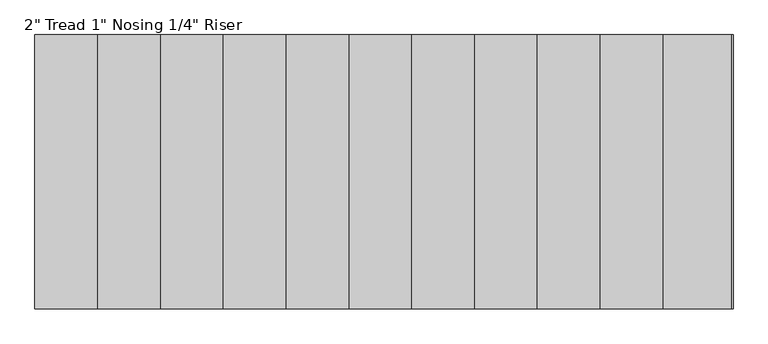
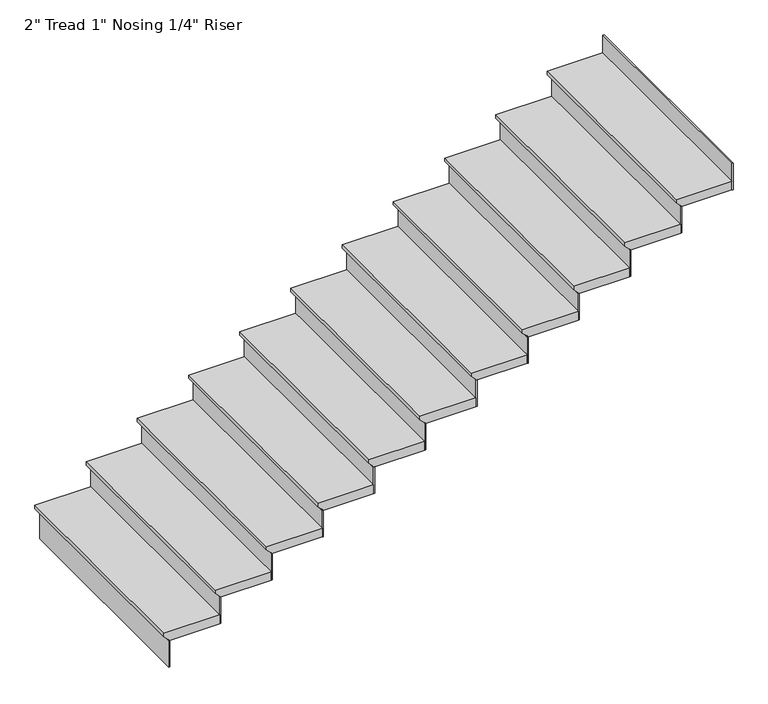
"""IFC4 building model written with IfcOpenShell, lengths in millimetres: stair flight geometry."""

from ifc_helpers import new_model, si_unit, frame, origin, place, context, project, spatial, polyline, outline, extrude, source, transform, mapped, element, save


def stair_flight_635392da(model_context):
    return source(origin(), model_context, "Body", "SweptSolid", [
        extrude(outline(polyline([(7467.6, -17516.1273699), (7467.6, -17820.9273699), (7448.55, -17820.9273699), (7423.15, -17795.5273699), (7416.8, -17795.5273699), (7416.8, -17516.1273699), (7467.6, -17516.1273699)])), frame((0.0, -12212.8253362, 0.0), z_axis=(0.0, 1.0, 0.0), x_axis=(0.0, 0.0, 1.0)), (0.0, 0.0, 1.0), 1219.2),
        extrude(outline(polyline([(-17789.1773699, -12212.8253362), (-17795.5273699, -12212.8253362), (-17795.5273699, -10993.6253362), (-17789.1773699, -10993.6253362), (-17789.1773699, -12212.8253362)])), frame((0.0, 0.0, 7264.4), z_axis=(0.0, 0.0, 1.0), x_axis=(1.0, 0.0, 0.0)), (0.0, 0.0, 1.0), 152.4),
        extrude(outline(polyline([(-17509.7773699, -12212.8253362), (-17516.1273699, -12212.8253362), (-17516.1273699, -10993.6253362), (-17509.7773699, -10993.6253362), (-17509.7773699, -12212.8253362)])), frame((0.0, 0.0, 7416.8), z_axis=(0.0, 0.0, 1.0), x_axis=(1.0, 0.0, 0.0)), (0.0, 0.0, 1.0), 152.4),
        extrude(outline(polyline([(7620.0, -17236.7273699), (7620.0, -17541.5273699), (7600.95, -17541.5273699), (7575.55, -17516.1273699), (7569.2, -17516.1273699), (7569.2, -17236.7273699), (7620.0, -17236.7273699)])), frame((0.0, -12212.8253362, 0.0), z_axis=(0.0, 1.0, 0.0), x_axis=(0.0, 0.0, 1.0)), (0.0, 0.0, 1.0), 1219.2),
        extrude(outline(polyline([(-17230.3773699, -12212.8253362), (-17236.7273699, -12212.8253362), (-17236.7273699, -10993.6253362), (-17230.3773699, -10993.6253362), (-17230.3773699, -12212.8253362)])), frame((0.0, 0.0, 7569.2), z_axis=(0.0, 0.0, 1.0), x_axis=(1.0, 0.0, 0.0)), (0.0, 0.0, 1.0), 152.4),
        extrude(outline(polyline([(7772.4, -16957.3273699), (7772.4, -17262.1273699), (7753.35, -17262.1273699), (7727.95, -17236.7273699), (7721.6, -17236.7273699), (7721.6, -16957.3273699), (7772.4, -16957.3273699)])), frame((0.0, -12212.8253362, 0.0), z_axis=(0.0, 1.0, 0.0), x_axis=(0.0, 0.0, 1.0)), (0.0, 0.0, 1.0), 1219.2),
        extrude(outline(polyline([(-16950.9773699, -12212.8253362), (-16957.3273699, -12212.8253362), (-16957.3273699, -10993.6253362), (-16950.9773699, -10993.6253362), (-16950.9773699, -12212.8253362)])), frame((0.0, 0.0, 7721.6), z_axis=(0.0, 0.0, 1.0), x_axis=(1.0, 0.0, 0.0)), (0.0, 0.0, 1.0), 152.4),
        extrude(outline(polyline([(7924.8, -16677.9273699), (7924.8, -16982.7273699), (7905.75, -16982.7273699), (7880.35, -16957.3273699), (7874.0, -16957.3273699), (7874.0, -16677.9273699), (7924.8, -16677.9273699)])), frame((0.0, -12212.8253362, 0.0), z_axis=(0.0, 1.0, 0.0), x_axis=(0.0, 0.0, 1.0)), (0.0, 0.0, 1.0), 1219.2),
        extrude(outline(polyline([(-16671.5773699, -12212.8253362), (-16677.9273699, -12212.8253362), (-16677.9273699, -10993.6253362), (-16671.5773699, -10993.6253362), (-16671.5773699, -12212.8253362)])), frame((0.0, 0.0, 7874.0), z_axis=(0.0, 0.0, 1.0), x_axis=(1.0, 0.0, 0.0)), (0.0, 0.0, 1.0), 152.4),
        extrude(outline(polyline([(8077.2, -16398.5273699), (8077.2, -16703.3273699), (8058.15, -16703.3273699), (8032.75, -16677.9273699), (8026.4, -16677.9273699), (8026.4, -16398.5273699), (8077.2, -16398.5273699)])), frame((0.0, -12212.8253362, 0.0), z_axis=(0.0, 1.0, 0.0), x_axis=(0.0, 0.0, 1.0)), (0.0, 0.0, 1.0), 1219.2),
        extrude(outline(polyline([(-16392.1773699, -12212.8253362), (-16398.5273699, -12212.8253362), (-16398.5273699, -10993.6253362), (-16392.1773699, -10993.6253362), (-16392.1773699, -12212.8253362)])), frame((0.0, 0.0, 8026.4), z_axis=(0.0, 0.0, 1.0), x_axis=(1.0, 0.0, 0.0)), (0.0, 0.0, 1.0), 152.4),
        extrude(outline(polyline([(8229.6, -16119.1273699), (8229.6, -16423.9273699), (8210.55, -16423.9273699), (8185.15, -16398.5273699), (8178.8, -16398.5273699), (8178.8, -16119.1273699), (8229.6, -16119.1273699)])), frame((0.0, -12212.8253362, 0.0), z_axis=(0.0, 1.0, 0.0), x_axis=(0.0, 0.0, 1.0)), (0.0, 0.0, 1.0), 1219.2),
        extrude(outline(polyline([(-16112.7773699, -12212.8253362), (-16119.1273699, -12212.8253362), (-16119.1273699, -10993.6253362), (-16112.7773699, -10993.6253362), (-16112.7773699, -12212.8253362)])), frame((0.0, 0.0, 8178.8), z_axis=(0.0, 0.0, 1.0), x_axis=(1.0, 0.0, 0.0)), (0.0, 0.0, 1.0), 152.4),
        extrude(outline(polyline([(8382.0, -15839.7273699), (8382.0, -16144.5273699), (8362.95, -16144.5273699), (8337.55, -16119.1273699), (8331.2, -16119.1273699), (8331.2, -15839.7273699), (8382.0, -15839.7273699)])), frame((0.0, -12212.8253362, 0.0), z_axis=(0.0, 1.0, 0.0), x_axis=(0.0, 0.0, 1.0)), (0.0, 0.0, 1.0), 1219.2),
        extrude(outline(polyline([(-15833.3773699, -12212.8253362), (-15839.7273699, -12212.8253362), (-15839.7273699, -10993.6253362), (-15833.3773699, -10993.6253362), (-15833.3773699, -12212.8253362)])), frame((0.0, 0.0, 8331.2), z_axis=(0.0, 0.0, 1.0), x_axis=(1.0, 0.0, 0.0)), (0.0, 0.0, 1.0), 152.4),
        extrude(outline(polyline([(8534.4, -15560.3273699), (8534.4, -15865.1273699), (8515.35, -15865.1273699), (8489.95, -15839.7273699), (8483.6, -15839.7273699), (8483.6, -15560.3273699), (8534.4, -15560.3273699)])), frame((0.0, -12212.8253362, 0.0), z_axis=(0.0, 1.0, 0.0), x_axis=(0.0, 0.0, 1.0)), (0.0, 0.0, 1.0), 1219.2),
        extrude(outline(polyline([(-15553.9773699, -12212.8253362), (-15560.3273699, -12212.8253362), (-15560.3273699, -10993.6253362), (-15553.9773699, -10993.6253362), (-15553.9773699, -12212.8253362)])), frame((0.0, 0.0, 8483.6), z_axis=(0.0, 0.0, 1.0), x_axis=(1.0, 0.0, 0.0)), (0.0, 0.0, 1.0), 152.4),
        extrude(outline(polyline([(8686.8, -15280.9273699), (8686.8, -15585.7273699), (8667.75, -15585.7273699), (8642.35, -15560.3273699), (8636.0, -15560.3273699), (8636.0, -15280.9273699), (8686.8, -15280.9273699)])), frame((0.0, -12212.8253362, 0.0), z_axis=(0.0, 1.0, 0.0), x_axis=(0.0, 0.0, 1.0)), (0.0, 0.0, 1.0), 1219.2),
        extrude(outline(polyline([(-15274.5773699, -12212.8253362), (-15280.9273699, -12212.8253362), (-15280.9273699, -10993.6253362), (-15274.5773699, -10993.6253362), (-15274.5773699, -12212.8253362)])), frame((0.0, 0.0, 8636.0), z_axis=(0.0, 0.0, 1.0), x_axis=(1.0, 0.0, 0.0)), (0.0, 0.0, 1.0), 152.4),
        extrude(outline(polyline([(8839.2, -15001.5273699), (8839.2, -15306.3273699), (8820.15, -15306.3273699), (8794.75, -15280.9273699), (8788.4, -15280.9273699), (8788.4, -15001.5273699), (8839.2, -15001.5273699)])), frame((0.0, -12212.8253362, 0.0), z_axis=(0.0, 1.0, 0.0), x_axis=(0.0, 0.0, 1.0)), (0.0, 0.0, 1.0), 1219.2),
        extrude(outline(polyline([(-14995.1773699, -12212.8253362), (-15001.5273699, -12212.8253362), (-15001.5273699, -10993.6253362), (-14995.1773699, -10993.6253362), (-14995.1773699, -12212.8253362)])), frame((0.0, 0.0, 8788.4), z_axis=(0.0, 0.0, 1.0), x_axis=(1.0, 0.0, 0.0)), (0.0, 0.0, 1.0), 152.4),
        extrude(outline(polyline([(-14715.7773699, -12212.8253362), (-14722.1273699, -12212.8253362), (-14722.1273699, -10993.6253362), (-14715.7773699, -10993.6253362), (-14715.7773699, -12212.8253362)])), frame((0.0, 0.0, 8940.8), z_axis=(0.0, 0.0, 1.0), x_axis=(1.0, 0.0, 0.0)), (0.0, 0.0, 1.0), 152.4),
        extrude(outline(polyline([(8991.6, -14722.1273699), (8991.6, -15026.9273699), (8972.55, -15026.9273699), (8947.15, -15001.5273699), (8940.8, -15001.5273699), (8940.8, -14722.1273699), (8991.6, -14722.1273699)])), frame((0.0, -12212.8253362, 0.0), z_axis=(0.0, 1.0, 0.0), x_axis=(0.0, 0.0, 1.0)), (0.0, 0.0, 1.0), 1219.2),
    ])


if __name__ == "__main__":
    model = new_model("IFC4")
    model_context = context("Model", 3, world=origin())
    ifc_project = project(units=[si_unit("LENGTHUNIT", "METRE", prefix="MILLI")], contexts=[model_context])
    site = spatial("IfcSite", under=ifc_project)
    building = spatial("IfcBuilding", under=site)
    placement = place(None, origin())
    stair_flight_shape = stair_flight_635392da(model_context)
    element("IfcStairFlight", 1, ObjectType="2\" Tread 1\" Nosing 1/4\" Riser", at=placement, inside=building, context=model_context, shape_type="MappedRepresentation", body=[
        mapped(stair_flight_shape, transform((0.0, 0.0, 0.0), x_axis=(1.0, 0.0, 0.0), y_axis=(0.0, 1.0, 0.0), z_axis=(0.0, 0.0, 1.0))),
    ])
    save(model, "model.ifc")
